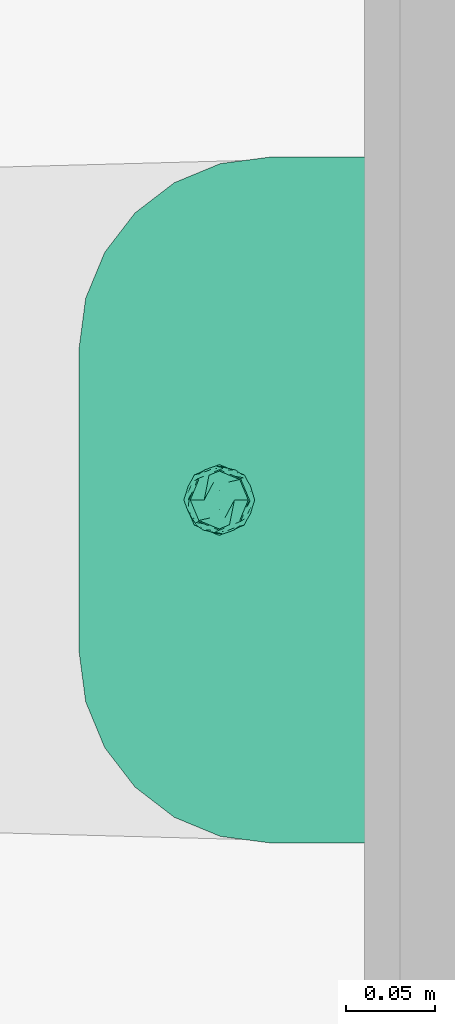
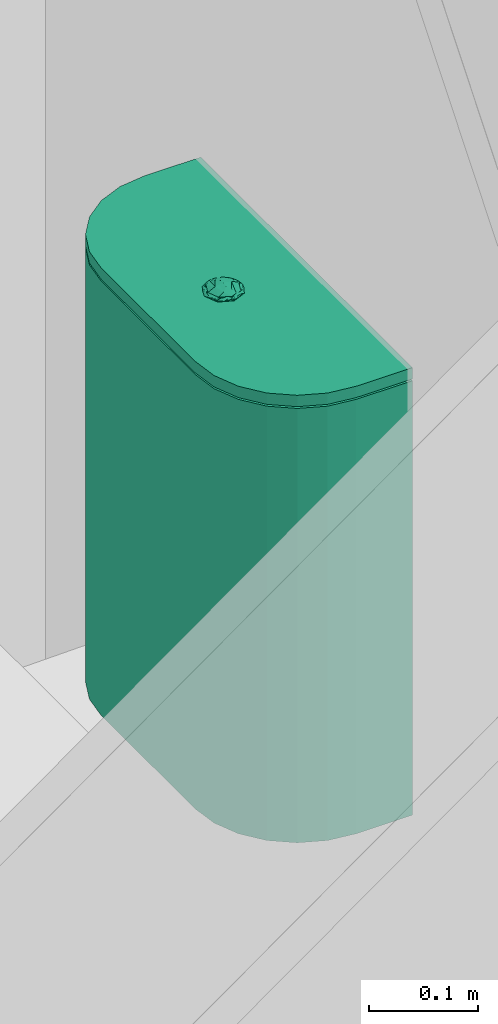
# One storey, part 63 of 75: 1 flow terminal.
"""IFC2X3 building model written with IfcOpenShell, lengths in metres."""

from ifc_helpers import new_model, entity, si_unit, converted_unit, derived_unit, direction, frame, origin, place, context, subcontext, project, spatial, faceted_brep, source, transform, mapped, material, material_list, type_object, type_shapes, element, save


model = new_model("IFC2X3")

# Units and contexts
model_context = context("Model", 3, precision=1e-05, world=origin(), true_north=direction((6.12303176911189e-17, 1.0)))
body_context = subcontext(model_context, "Body", "Model", "MODEL_VIEW")
ifc_project = project(units=[si_unit("LENGTHUNIT", "METRE"), si_unit("AREAUNIT", "SQUARE_METRE"), si_unit("VOLUMEUNIT", "CUBIC_METRE"), converted_unit("PLANEANGLEUNIT", "DEGREE", entity("IfcRatioMeasure", 0.0174532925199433), si_unit("PLANEANGLEUNIT", "RADIAN"), dimensions=[0, 0, 0, 0, 0, 0, 0]), si_unit("MASSUNIT", "GRAM", prefix="KILO"), derived_unit("MASSDENSITYUNIT", [(si_unit("MASSUNIT", "GRAM", prefix="KILO"), 1), (si_unit("LENGTHUNIT", "METRE"), -3)]), derived_unit("MOMENTOFINERTIAUNIT", [(si_unit("LENGTHUNIT", "METRE"), 4)]), si_unit("TIMEUNIT", "SECOND"), si_unit("FREQUENCYUNIT", "HERTZ"), si_unit("THERMODYNAMICTEMPERATUREUNIT", "DEGREE_CELSIUS"), derived_unit("THERMALTRANSMITTANCEUNIT", [(si_unit("MASSUNIT", "GRAM", prefix="KILO"), 1), (si_unit("THERMODYNAMICTEMPERATUREUNIT", "KELVIN"), -1), (si_unit("TIMEUNIT", "SECOND"), -3)]), derived_unit("VOLUMETRICFLOWRATEUNIT", [(si_unit("LENGTHUNIT", "METRE"), 3), (si_unit("TIMEUNIT", "SECOND"), -1)]), si_unit("ELECTRICCURRENTUNIT", "AMPERE"), si_unit("ELECTRICVOLTAGEUNIT", "VOLT"), si_unit("POWERUNIT", "WATT"), si_unit("FORCEUNIT", "NEWTON", prefix="KILO"), si_unit("ILLUMINANCEUNIT", "LUX"), si_unit("LUMINOUSFLUXUNIT", "LUMEN"), si_unit("LUMINOUSINTENSITYUNIT", "CANDELA"), derived_unit("USERDEFINED", [(si_unit("MASSUNIT", "GRAM", prefix="KILO"), -1), (si_unit("LENGTHUNIT", "METRE"), -2), (si_unit("TIMEUNIT", "SECOND"), 3), (si_unit("LUMINOUSFLUXUNIT", "LUMEN"), 1)]), derived_unit("LINEARVELOCITYUNIT", [(si_unit("LENGTHUNIT", "METRE"), 1), (si_unit("TIMEUNIT", "SECOND"), -1)]), si_unit("PRESSUREUNIT", "PASCAL"), derived_unit("USERDEFINED", [(si_unit("LENGTHUNIT", "METRE"), -2), (si_unit("MASSUNIT", "GRAM", prefix="KILO"), 1), (si_unit("TIMEUNIT", "SECOND"), -2)]), derived_unit("LINEARFORCEUNIT", [(si_unit("MASSUNIT", "GRAM", prefix="KILO"), 1), (si_unit("LENGTHUNIT", "METRE"), 1), (si_unit("TIMEUNIT", "SECOND"), -2), (si_unit("LENGTHUNIT", "METRE"), -1)]), derived_unit("PLANARFORCEUNIT", [(si_unit("MASSUNIT", "GRAM", prefix="KILO"), 1), (si_unit("LENGTHUNIT", "METRE"), 1), (si_unit("TIMEUNIT", "SECOND"), -2), (si_unit("LENGTHUNIT", "METRE"), -2)])], contexts=[model_context])

# Site, building, storey
site_placement = place(None, origin())
site = spatial("IfcSite", under=ifc_project, at=site_placement, Name="Superficie", CompositionType="ELEMENT")
building_placement = place(site_placement, origin())
building = spatial("IfcBuilding", under=site, at=building_placement, Name="Telegestiones", CompositionType="ELEMENT")
storey_placement = place(building_placement, origin())
storey = spatial("IfcBuildingStorey", under=building, at=storey_placement, Name="Nivel 0_NPT", CompositionType="ELEMENT", Elevation=0.0)

# Flow terminal
ifc_material_1 = material(Name="Metal - Ferrum - Cromado")
ifc_material_2 = material(Name="Ceramica - Ferrum - Blanco Satinado")
ifc_material_list_1 = material_list([ifc_material_1, ifc_material_2])
ifc_material_list_2 = material_list([ifc_material_2, ifc_material_1])
distribution_element_type = type_object("IfcDistributionElementType", Name="Inodoro-Ferrum-Marina-Deposito:Deposito", material=ifc_material_list_2)
shared_shape = source(origin(), body_context, "Body", "Brep", [
    faceted_brep([(0.0, -0.0879347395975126, 0.501461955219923), (0.0, -0.0708831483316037, 0.501461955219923), (-0.00479660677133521, -0.0728699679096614, 0.501461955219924), (-0.00842695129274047, -0.0743737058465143, 0.501461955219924), (-0.0120572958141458, -0.0758774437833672, 0.501461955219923), (-0.0133058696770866, -0.0788917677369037, 0.501461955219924), (-0.0145544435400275, -0.0819060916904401, 0.501461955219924), (-0.0158030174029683, -0.0849204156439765, 0.501461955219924), (-0.0170515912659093, -0.087934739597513, 0.501461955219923), (-0.0158030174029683, -0.0909490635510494, 0.501461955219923), (-0.0145544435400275, -0.0939633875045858, 0.501461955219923), (-0.0133058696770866, -0.0969777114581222, 0.501461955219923), (-0.0120572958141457, -0.0999920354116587, 0.501461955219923), (-0.00842695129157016, -0.101495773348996, 0.501461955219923), (-0.00479660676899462, -0.102999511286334, 0.501461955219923), (0.0, -0.104986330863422, 0.501461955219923), (0.0047966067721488, -0.102999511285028, 0.501461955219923), (0.00479660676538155, -0.0728699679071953, 0.501461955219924), (0.00842695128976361, -0.0743737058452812, 0.501461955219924), (0.0120572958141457, -0.0758774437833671, 0.501461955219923), (0.0133058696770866, -0.0788917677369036, 0.501461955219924), (0.0145544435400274, -0.08190609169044, 0.501461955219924), (0.0158030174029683, -0.0849204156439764, 0.501461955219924), (0.0170515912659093, -0.0879347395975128, 0.501461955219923), (0.00842695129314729, -0.101495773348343, 0.501461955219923), (0.0120572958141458, -0.0999920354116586, 0.501461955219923), (0.0133058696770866, -0.0969777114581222, 0.501461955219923), (0.0145544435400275, -0.0939633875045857, 0.501461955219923), (0.0158030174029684, -0.0909490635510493, 0.501461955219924), (0.0, -0.0879347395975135, 0.499004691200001), (-0.0141421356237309, -0.0737926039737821, 0.499004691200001), (-0.00988406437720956, -0.0720288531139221, 0.499004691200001), (-0.00562599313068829, -0.070265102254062, 0.499004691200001), (0.0, -0.067934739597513, 0.499004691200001), (0.00562599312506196, -0.0702651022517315, 0.499004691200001), (-0.0156066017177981, -0.0773281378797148, 0.499004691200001), (-0.0170710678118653, -0.0808636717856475, 0.499004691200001), (-0.0185355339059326, -0.0843992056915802, 0.499004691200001), (-0.0199999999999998, -0.0879347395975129, 0.499004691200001), (-0.0185355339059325, -0.0914702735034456, 0.499004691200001), (-0.0170710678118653, -0.0950058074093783, 0.499004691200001), (-0.015606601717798, -0.098541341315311, 0.499004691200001), (-0.0141421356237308, -0.102076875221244, 0.499004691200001), (-0.00988406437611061, -0.103840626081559, 0.499004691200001), (-0.00562599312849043, -0.105604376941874, 0.499004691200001), (0.0, -0.107934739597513, 0.499004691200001), (0.00988406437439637, -0.0720288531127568, 0.499004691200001), (0.0141421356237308, -0.073792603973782, 0.499004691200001), (0.015606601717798, -0.0773281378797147, 0.499004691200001), (0.0170710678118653, -0.0808636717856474, 0.499004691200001), (0.0185355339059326, -0.0843992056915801, 0.499004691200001), (0.0199999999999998, -0.0879347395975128, 0.499004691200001), (0.0185355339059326, -0.0914702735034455, 0.499004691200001), (0.00562599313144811, -0.105604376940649, 0.499004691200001), (0.0098840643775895, -0.103840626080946, 0.499004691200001), (0.0141421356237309, -0.102076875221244, 0.499004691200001), (0.0170710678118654, -0.0950058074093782, 0.499004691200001), (0.0156066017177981, -0.0985413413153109, 0.499004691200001), (-0.0106825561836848, -0.102196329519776, 0.500884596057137), (-0.013204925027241, -0.0999578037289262, 0.500853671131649), (-0.0124759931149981, -0.101684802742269, 0.500282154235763), (-0.0157937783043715, -0.0963766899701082, 0.500814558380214), (-0.0148252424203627, -0.0991118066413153, 0.50028215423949), (-0.00401935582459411, -0.0691551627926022, 0.499734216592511), (-0.00968739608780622, -0.10377358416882, 0.500282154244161), (-0.00437721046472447, -0.10555508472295, 0.500618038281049), (-0.00752313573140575, -0.104092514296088, 0.5008810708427), (0.0, -0.105664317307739, 0.500933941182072), (-0.0172182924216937, -0.095648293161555, 0.500028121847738), (0.0, -0.106501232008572, 0.500282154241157), (-0.017062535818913, -0.0930831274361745, 0.500881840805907), (-0.0177493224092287, -0.0896123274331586, 0.500877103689), (-0.0153450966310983, -0.0776814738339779, 0.500374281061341), (-0.0170166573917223, -0.0807405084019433, 0.500358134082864), (-0.00496458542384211, -0.0703027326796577, 0.500487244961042), (-0.00805501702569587, -0.0704028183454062, 0.499655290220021), (-0.00968739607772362, -0.0720958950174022, 0.500282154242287), (-0.00372687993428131, -0.106716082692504, 0.49978476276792), (0.0, -0.0702051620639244, 0.500933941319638), (0.0, -0.0693682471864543, 0.500282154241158), (-0.0111886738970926, -0.072216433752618, 0.499655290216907), (-0.0119381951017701, -0.103091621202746, 0.499655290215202), (-0.00762284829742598, -0.105588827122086, 0.499712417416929), (-0.0181504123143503, -0.0840261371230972, 0.500282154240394), (-0.018565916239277, -0.0877884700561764, 0.50028215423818), (-0.0177055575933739, -0.0861570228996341, 0.500903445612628), (-0.0182097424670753, -0.091556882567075, 0.500282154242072), (-0.0192009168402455, -0.089825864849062, 0.499655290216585), (-0.0170346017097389, -0.082767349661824, 0.500898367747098), (-0.0126874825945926, -0.0746691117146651, 0.50045576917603), (-0.0169081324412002, -0.0787166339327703, 0.499687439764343), (-0.0145243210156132, -0.0753984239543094, 0.499750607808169), (0.0106825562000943, -0.0736731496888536, 0.500884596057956), (0.0132049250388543, -0.075911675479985, 0.500853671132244), (0.0124759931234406, -0.0741846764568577, 0.500282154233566), (0.0157937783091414, -0.0794927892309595, 0.500814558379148), (0.0148252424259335, -0.0767576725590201, 0.500282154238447), (0.00509887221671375, -0.106043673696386, 0.50007430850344), (0.00968739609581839, -0.0720958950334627, 0.500282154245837), (0.00437721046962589, -0.0703143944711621, 0.500618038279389), (0.00752313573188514, -0.0717769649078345, 0.500881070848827), (0.0172182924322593, -0.0802211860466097, 0.50002812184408), (0.00968739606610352, -0.103773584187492, 0.500282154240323), (0.012687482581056, -0.101200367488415, 0.50045576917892), (0.0103332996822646, -0.102451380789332, 0.500884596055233), (0.0170625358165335, -0.0827863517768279, 0.500881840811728), (0.0177493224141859, -0.0862571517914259, 0.500877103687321), (0.0170166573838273, -0.0951289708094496, 0.500358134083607), (0.018150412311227, -0.0918433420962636, 0.500282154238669), (0.0170346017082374, -0.0931021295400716, 0.500898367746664), (0.014524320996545, -0.100471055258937, 0.4997506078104), (0.00743921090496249, -0.104126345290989, 0.500884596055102), (0.00372687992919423, -0.0691533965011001, 0.499784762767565), (0.0037488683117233, -0.105450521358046, 0.500811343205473), (0.0119381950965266, -0.0727778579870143, 0.499655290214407), (0.00762284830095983, -0.0702806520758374, 0.499712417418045), (0.0185659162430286, -0.0880810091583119, 0.500282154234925), (0.0177055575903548, -0.0897124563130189, 0.500903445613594), (0.0182097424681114, -0.0843125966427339, 0.500282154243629), (0.0192009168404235, -0.0860436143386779, 0.499655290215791), (0.0153450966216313, -0.0981880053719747, 0.500374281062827), (0.0169081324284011, -0.0971528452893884, 0.499687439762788)], [[[0, 1, 2]], [[0, 2, 3]], [[0, 3, 4]], [[0, 4, 5]], [[0, 5, 6]], [[0, 6, 7]], [[0, 7, 8]], [[0, 8, 9]], [[0, 9, 10]], [[0, 10, 11]], [[0, 11, 12]], [[0, 12, 13]], [[0, 13, 14]], [[0, 14, 15]], [[0, 15, 16]], [[0, 17, 1]], [[0, 18, 17]], [[0, 19, 18]], [[0, 20, 19]], [[0, 21, 20]], [[0, 22, 21]], [[0, 23, 22]], [[0, 16, 24]], [[0, 24, 25]], [[0, 25, 26]], [[0, 26, 27]], [[0, 27, 28]], [[0, 28, 23]], [[29, 30, 31]], [[29, 31, 32]], [[29, 32, 33]], [[29, 33, 34]], [[29, 35, 30]], [[29, 36, 35]], [[29, 37, 36]], [[29, 38, 37]], [[29, 39, 38]], [[29, 40, 39]], [[29, 41, 40]], [[29, 42, 41]], [[29, 43, 42]], [[29, 44, 43]], [[29, 45, 44]], [[29, 34, 46]], [[29, 46, 47]], [[29, 47, 48]], [[29, 48, 49]], [[29, 49, 50]], [[29, 50, 51]], [[29, 51, 52]], [[29, 53, 45]], [[29, 54, 53]], [[29, 55, 54]], [[29, 52, 56]], [[29, 56, 57]], [[29, 57, 55]], [[58, 59, 60]], [[59, 11, 61]], [[61, 62, 59]], [[33, 32, 63]], [[64, 65, 66]], [[15, 14, 67]], [[62, 68, 41]], [[69, 67, 65]], [[70, 9, 71]], [[68, 62, 61]], [[6, 72, 73]], [[74, 75, 76]], [[32, 75, 63]], [[31, 75, 32]], [[69, 65, 77]], [[74, 1, 78, 79]], [[74, 76, 3]], [[80, 76, 75]], [[81, 82, 64]], [[83, 37, 84]], [[71, 85, 84]], [[45, 69, 77]], [[68, 39, 40, 41]], [[68, 86, 87]], [[85, 7, 88]], [[88, 73, 83]], [[31, 80, 75]], [[89, 72, 5]], [[37, 38, 87]], [[36, 83, 90]], [[65, 67, 14]], [[13, 12, 58]], [[77, 82, 44]], [[82, 65, 64]], [[45, 77, 44]], [[65, 82, 77]], [[82, 81, 43]], [[43, 81, 42]], [[43, 44, 82]], [[60, 81, 64]], [[58, 64, 66]], [[62, 81, 60]], [[66, 14, 13]], [[60, 64, 58]], [[59, 58, 12]], [[14, 66, 65]], [[13, 58, 66]], [[59, 12, 11]], [[60, 59, 62]], [[11, 10, 61]], [[86, 70, 71]], [[61, 70, 68]], [[87, 38, 39]], [[42, 81, 62]], [[68, 87, 39]], [[42, 62, 41]], [[84, 87, 86]], [[71, 84, 86]], [[83, 36, 37]], [[73, 88, 6]], [[6, 88, 7]], [[85, 83, 84]], [[68, 70, 86]], [[8, 7, 85]], [[61, 10, 70]], [[9, 8, 71]], [[85, 88, 83]], [[8, 85, 71]], [[70, 10, 9]], [[73, 72, 90]], [[91, 90, 72]], [[91, 35, 90]], [[89, 91, 72]], [[76, 80, 89]], [[72, 6, 5]], [[87, 84, 37]], [[35, 91, 30]], [[91, 80, 30]], [[35, 36, 90]], [[75, 74, 63]], [[89, 3, 76]], [[1, 74, 3, 2]], [[74, 79, 63]], [[33, 63, 79]], [[30, 80, 31]], [[89, 80, 91]], [[3, 89, 4]], [[83, 73, 90]], [[4, 89, 5]], [[92, 93, 94]], [[93, 20, 95]], [[95, 96, 93]], [[45, 53, 54, 97]], [[98, 99, 100]], [[1, 17, 78]], [[96, 101, 48]], [[102, 103, 104]], [[105, 22, 106]], [[101, 96, 95]], [[107, 108, 109]], [[102, 54, 110]], [[104, 111, 102]], [[102, 111, 97]], [[79, 99, 112]], [[113, 15, 67, 69]], [[25, 24, 104]], [[79, 78, 99]], [[114, 115, 98]], [[116, 108, 52]], [[106, 117, 116]], [[33, 79, 112]], [[101, 50, 49, 48]], [[101, 118, 119]], [[117, 28, 109]], [[120, 27, 26]], [[110, 103, 102]], [[27, 120, 107]], [[52, 51, 119]], [[56, 108, 121]], [[99, 78, 17]], [[18, 19, 92]], [[112, 115, 34]], [[115, 99, 98]], [[33, 112, 34]], [[99, 115, 112]], [[115, 114, 46]], [[46, 114, 47]], [[46, 34, 115]], [[94, 114, 98]], [[92, 98, 100]], [[96, 114, 94]], [[100, 17, 18]], [[94, 98, 92]], [[93, 92, 19]], [[17, 100, 99]], [[18, 92, 100]], [[93, 19, 20]], [[94, 93, 96]], [[20, 21, 95]], [[118, 105, 106]], [[95, 105, 101]], [[119, 51, 50]], [[47, 114, 96]], [[101, 119, 50]], [[47, 96, 48]], [[116, 119, 118]], [[106, 116, 118]], [[108, 56, 52]], [[107, 109, 27]], [[27, 109, 28]], [[117, 108, 116]], [[101, 105, 118]], [[23, 28, 117]], [[95, 21, 105]], [[22, 23, 106]], [[117, 109, 108]], [[23, 117, 106]], [[105, 21, 22]], [[103, 26, 25]], [[107, 120, 121]], [[110, 121, 120]], [[110, 57, 121]], [[103, 110, 120]], [[97, 54, 102]], [[103, 120, 26]], [[24, 111, 104]], [[97, 111, 113]], [[111, 24, 16]], [[16, 113, 111]], [[45, 97, 69]], [[119, 116, 52]], [[15, 113, 16]], [[69, 97, 113]], [[57, 110, 55]], [[57, 56, 121]], [[25, 104, 103]], [[55, 110, 54]], [[108, 107, 121]]]),
    faceted_brep([(0.0, -0.0879347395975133, 0.501961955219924), (-0.0115552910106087, -0.0763794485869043, 0.501961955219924), (-0.00652729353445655, -0.0742967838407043, 0.501961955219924), (-0.0032636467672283, -0.0729449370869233, 0.501961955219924), (0.0, -0.0715930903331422, 0.501961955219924), (0.00652729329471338, -0.0742967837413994, 0.501961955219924), (-0.0139484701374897, -0.0821570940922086, 0.501961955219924), (-0.0163416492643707, -0.087934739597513, 0.501961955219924), (-0.0139484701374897, -0.0937123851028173, 0.501961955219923), (-0.0115552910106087, -0.0994900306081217, 0.501961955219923), (-0.00652729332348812, -0.101572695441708, 0.501961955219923), (0.0, -0.104276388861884, 0.501961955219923), (0.0115552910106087, -0.0763794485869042, 0.501961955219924), (0.0139484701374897, -0.0821570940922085, 0.501961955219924), (0.0163416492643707, -0.0879347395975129, 0.501961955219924), (0.0139484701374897, -0.0937123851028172, 0.501961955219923), (0.00326364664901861, -0.102924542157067, 0.501961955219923), (0.00652729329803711, -0.10157269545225, 0.501961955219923), (0.0115552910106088, -0.0994900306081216, 0.501961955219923), (0.0, -0.0964857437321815, 0.505715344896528), (0.0, -0.0922102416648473, 0.506360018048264), (-0.0100644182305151, -0.0911023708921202, 0.505017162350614), (-0.00557978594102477, -0.0879347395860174, 0.506462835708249), (-0.0101494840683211, -0.0826250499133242, 0.504646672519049), (0.0, -0.102536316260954, 0.502800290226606), (0.0, -0.100796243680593, 0.503638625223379), (0.0, -0.0986409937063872, 0.504676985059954), (0.0, -0.0836592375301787, 0.506360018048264), (0.0, -0.0793837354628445, 0.505715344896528), (0.0, -0.0772284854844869, 0.504676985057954), (0.0, -0.0750732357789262, 0.503638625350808), (0.0, -0.0733331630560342, 0.502800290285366), (0.0, -0.087934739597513, 0.5070046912), (0.01006441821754, -0.0847671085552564, 0.50501716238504), (0.00557978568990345, -0.0879347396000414, 0.506462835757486), (0.0101494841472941, -0.0932444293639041, 0.504646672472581)], [[[0, 1, 2]], [[0, 2, 3]], [[0, 3, 4]], [[0, 4, 5]], [[0, 6, 1]], [[0, 7, 6]], [[0, 8, 7]], [[0, 9, 8]], [[0, 10, 9]], [[0, 11, 10]], [[0, 5, 12]], [[0, 12, 13]], [[0, 13, 14]], [[0, 14, 15]], [[0, 16, 11]], [[0, 17, 16]], [[0, 18, 17]], [[0, 15, 18]], [[19, 20, 21]], [[19, 8, 9]], [[22, 23, 21]], [[10, 11, 24, 25, 26, 19, 9]], [[21, 8, 19]], [[27, 28, 23]], [[23, 1, 6, 7]], [[1, 23, 28]], [[23, 7, 21]], [[3, 2, 1, 28, 29, 30, 31, 4]], [[27, 22, 32]], [[7, 8, 21]], [[20, 32, 22]], [[23, 22, 27]], [[21, 20, 22]], [[28, 27, 33]], [[28, 13, 12]], [[34, 35, 33]], [[5, 4, 31, 30, 29, 28, 12]], [[33, 13, 28]], [[20, 19, 35]], [[35, 18, 15, 14]], [[18, 35, 19]], [[35, 14, 33]], [[24, 11, 16, 17, 18, 19, 26, 25]], [[20, 34, 32]], [[14, 13, 33]], [[27, 32, 34]], [[35, 34, 20]], [[33, 27, 34]]]),
    faceted_brep([(0.1935, -0.059548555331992, 0.4863750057), (0.189838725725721, -0.0873586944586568, 0.4863750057), (0.179104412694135, -0.113273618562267, 0.4863750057), (0.162028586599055, -0.135527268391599, 0.4863750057), (0.139774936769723, -0.152603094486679, 0.486375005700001), (0.113860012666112, -0.163337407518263, 0.486375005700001), (0.0860498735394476, -0.166998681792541, 0.486375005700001), (-0.0860498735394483, -0.166998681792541, 0.486375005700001), (-0.113860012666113, -0.163337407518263, 0.486375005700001), (-0.139774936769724, -0.152603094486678, 0.486375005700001), (-0.162028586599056, -0.135527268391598, 0.4863750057), (-0.179104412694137, -0.113273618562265, 0.4863750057), (-0.189838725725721, -0.0873586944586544, 0.4863750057), (-0.1935, -0.0595485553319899, 0.4863750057), (-0.1935, 0.0, 0.4863750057), (0.1935, 0.0, 0.4863750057), (-0.1935, -0.0595485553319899, 0.499004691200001), (-0.189838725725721, -0.0873586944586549, 0.499004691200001), (-0.179104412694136, -0.113273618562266, 0.499004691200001), (-0.162028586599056, -0.135527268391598, 0.499004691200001), (-0.139774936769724, -0.152603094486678, 0.499004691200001), (-0.113860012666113, -0.163337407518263, 0.499004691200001), (-0.0860498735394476, -0.166998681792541, 0.499004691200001), (0.0860498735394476, -0.166998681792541, 0.499004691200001), (0.113860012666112, -0.163337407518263, 0.499004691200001), (0.139774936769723, -0.152603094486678, 0.499004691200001), (0.162028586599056, -0.135527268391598, 0.499004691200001), (0.179104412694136, -0.113273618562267, 0.499004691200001), (0.189838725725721, -0.0873586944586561, 0.499004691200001), (0.1935, -0.0595485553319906, 0.499004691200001), (0.1935, 0.0, 0.499004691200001), (-0.1935, 0.0, 0.499004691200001)], [[[0, 1, 2, 3, 4, 5, 6, 7, 8, 9, 10, 11, 12, 13, 14, 15]], [[16, 17, 18, 19, 20, 21, 22, 23, 24, 25, 26, 27, 28, 29, 30, 31]], [[16, 31, 14, 13]], [[16, 13, 12, 17]], [[17, 12, 11, 18]], [[18, 11, 10, 19]], [[8, 7, 22, 21]], [[9, 8, 21, 20]], [[19, 10, 9, 20]], [[23, 22, 7, 6]], [[23, 6, 5, 24]], [[24, 5, 4, 25]], [[25, 4, 3, 26]], [[27, 2, 1, 28]], [[28, 1, 0, 29]], [[26, 3, 2, 27]], [[30, 29, 0, 15]], [[31, 30, 15, 14]]]),
    faceted_brep([(-0.1935, -0.05954855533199, 0.484375), (-0.1935, 0.0, 0.484375), (-0.1935, 0.0, 0.0), (-0.1935, -0.0595485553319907, 0.0), (-0.189838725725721, -0.0873586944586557, 0.0), (-0.179104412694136, -0.113273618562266, 0.0), (-0.179104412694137, -0.113273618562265, 0.484375), (-0.189838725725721, -0.0873586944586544, 0.484375), (-0.162028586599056, -0.135527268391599, 0.0), (-0.162028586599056, -0.135527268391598, 0.484375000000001), (-0.113860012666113, -0.163337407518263, 0.484375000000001), (-0.139774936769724, -0.152603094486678, 0.484375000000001), (-0.139774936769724, -0.152603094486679, 0.0), (-0.113860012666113, -0.163337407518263, 0.0), (-0.0860498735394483, -0.166998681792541, 0.484375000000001), (-0.0860498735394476, -0.166998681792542, 0.0), (0.0860498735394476, -0.166998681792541, 0.484375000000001), (0.0860498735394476, -0.166998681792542, 0.0), (0.113860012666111, -0.163337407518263, 0.484375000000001), (0.113860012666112, -0.163337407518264, 0.0), (0.139774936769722, -0.152603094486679, 0.484375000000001), (0.139774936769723, -0.152603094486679, 0.0), (0.162028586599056, -0.135527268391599, 0.0), (0.162028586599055, -0.1355272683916, 0.484375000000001), (0.189838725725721, -0.0873586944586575, 0.484375), (0.179104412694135, -0.113273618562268, 0.484375), (0.179104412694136, -0.113273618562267, 0.0), (0.189838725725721, -0.0873586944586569, 0.0), (0.1935, -0.0595485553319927, 0.484375), (0.1935, -0.0595485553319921, 0.0), (0.1935, 0.0, 0.484375), (0.1935, 0.0, 0.0)], [[[0, 1, 2, 3]], [[4, 5, 6, 7]], [[3, 4, 7, 0]], [[5, 8, 9, 6]], [[10, 11, 12, 13]], [[14, 10, 13, 15]], [[8, 12, 11, 9]], [[16, 14, 15, 17]], [[18, 16, 17, 19]], [[20, 18, 19, 21]], [[21, 22, 23, 20]], [[24, 25, 26, 27]], [[28, 24, 27, 29]], [[22, 26, 25, 23]], [[30, 28, 29, 31]], [[1, 30, 31, 2]], [[20, 23, 25, 24, 28, 30, 1, 0, 7, 6, 9, 11, 10, 14, 16, 18]], [[13, 12, 8, 5, 4, 3, 2, 31, 29, 27, 26, 22, 21, 19, 17, 15]]]),
])
type_shapes(distribution_element_type, [shared_shape])
flow_terminal_placement = place(storey_placement, frame((5.34028977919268, -2.65289277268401, 0.437884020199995), z_axis=(0.0, 0.0, 1.0), x_axis=(0.0, -1.0, 0.0)))
element("IfcFlowTerminal", 1, at=flow_terminal_placement, inside=storey, type_object=distribution_element_type, material=ifc_material_list_1, Name="Inodoro-Ferrum-Marina-Deposito:Deposito", ObjectType="Inodoro-Ferrum-Marina-Deposito:Deposito", context=body_context, shape_type="MappedRepresentation", body=[
    mapped(shared_shape, transform((0.0, 0.0, 0.0), scale=1.0)),
])

save(model, "model.ifc")
